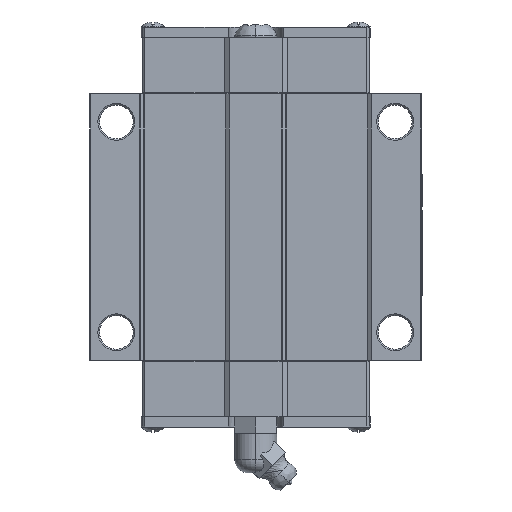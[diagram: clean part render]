
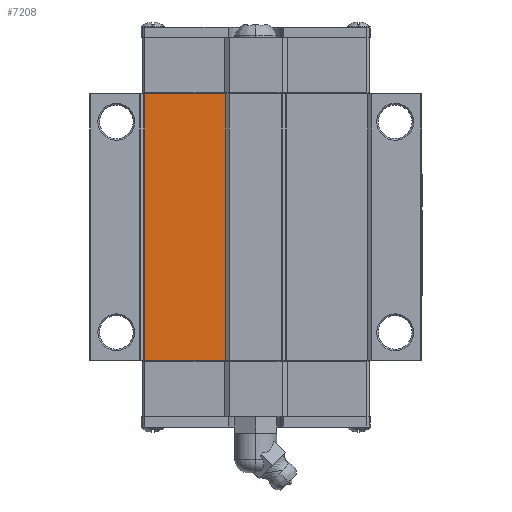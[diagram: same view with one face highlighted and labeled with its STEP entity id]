
A CAD part, front view. The second image highlights one B-rep face of the part: STEP entity #7208.
In plain terms, the highlighted planar face has unit normal (0, -1, 0).
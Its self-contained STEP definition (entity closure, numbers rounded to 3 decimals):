
#344 = LINE ( 'NONE', #24039, #15969 ) ;
#1602 = DIRECTION ( 'NONE',  ( 1., 0., 0. ) ) ;
#4367 = VERTEX_POINT ( 'NONE', #13858 ) ;
#4576 = ORIENTED_EDGE ( 'NONE', *, *, #19484, .T. ) ;
#4675 = VERTEX_POINT ( 'NONE', #9817 ) ;
#4749 = ORIENTED_EDGE ( 'NONE', *, *, #10212, .T. ) ;
#5255 = VECTOR ( 'NONE', #16579, 1000. ) ;
#7074 = DIRECTION ( 'NONE',  ( 0., 1., 0. ) ) ;
#7208 = ADVANCED_FACE ( 'NONE', ( #8717 ), #11263, .F. ) ;
#8410 = ORIENTED_EDGE ( 'NONE', *, *, #26295, .T. ) ;
#8717 = FACE_OUTER_BOUND ( 'NONE', #26962, .T. ) ;
#8748 = AXIS2_PLACEMENT_3D ( 'NONE', #19809, #7074, #21961 ) ;
#9154 = DIRECTION ( 'NONE',  ( 0., 0., -1. ) ) ;
#9405 = EDGE_CURVE ( 'NONE', #4367, #4675, #18698, .T. ) ;
#9817 = CARTESIAN_POINT ( 'NONE',  ( -21.215, 0.6, 25.3 ) ) ;
#10212 = EDGE_CURVE ( 'NONE', #4675, #17791, #344, .T. ) ;
#11263 = PLANE ( 'NONE',  #8748 ) ;
#11581 = LINE ( 'NONE', #14453, #5255 ) ;
#12910 = CARTESIAN_POINT ( 'NONE',  ( -5.785, 0.6, -25.3 ) ) ;
#13033 = VECTOR ( 'NONE', #14217, 1000. ) ;
#13858 = CARTESIAN_POINT ( 'NONE',  ( -5.785, 0.6, 25.3 ) ) ;
#14217 = DIRECTION ( 'NONE',  ( -1., 0., 0. ) ) ;
#14453 = CARTESIAN_POINT ( 'NONE',  ( -5.785, 0.6, 25.4 ) ) ;
#15969 = VECTOR ( 'NONE', #9154, 1000. ) ;
#16472 = CARTESIAN_POINT ( 'NONE',  ( -21.25, 0.6, -25.3 ) ) ;
#16579 = DIRECTION ( 'NONE',  ( 0., 0., 1. ) ) ;
#16760 = VECTOR ( 'NONE', #1602, 1000. ) ;
#17791 = VERTEX_POINT ( 'NONE', #21196 ) ;
#18698 = LINE ( 'NONE', #24803, #13033 ) ;
#19484 = EDGE_CURVE ( 'NONE', #17791, #19699, #23054, .T. ) ;
#19699 = VERTEX_POINT ( 'NONE', #12910 ) ;
#19809 = CARTESIAN_POINT ( 'NONE',  ( -21.25, 0.6, -25.4 ) ) ;
#21196 = CARTESIAN_POINT ( 'NONE',  ( -21.215, 0.6, -25.3 ) ) ;
#21498 = ORIENTED_EDGE ( 'NONE', *, *, #9405, .T. ) ;
#21961 = DIRECTION ( 'NONE',  ( 0., 0., 1. ) ) ;
#23054 = LINE ( 'NONE', #16472, #16760 ) ;
#24039 = CARTESIAN_POINT ( 'NONE',  ( -21.215, 0.6, -25.4 ) ) ;
#24803 = CARTESIAN_POINT ( 'NONE',  ( -21.25, 0.6, 25.3 ) ) ;
#26295 = EDGE_CURVE ( 'NONE', #19699, #4367, #11581, .T. ) ;
#26962 = EDGE_LOOP ( 'NONE', ( #4749, #4576, #8410, #21498 ) ) ;
